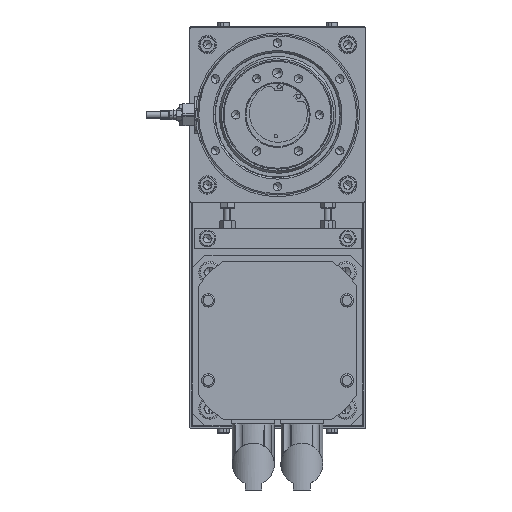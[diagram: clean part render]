
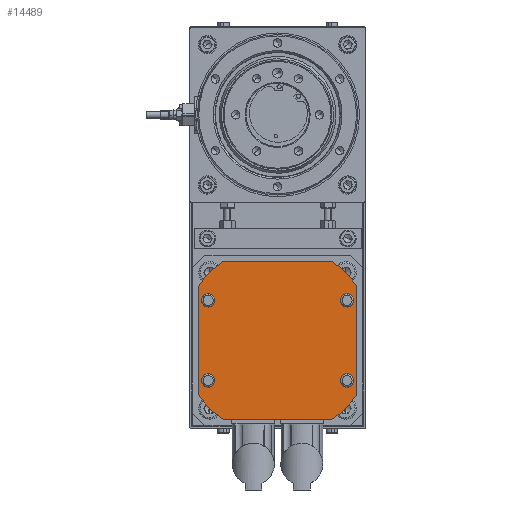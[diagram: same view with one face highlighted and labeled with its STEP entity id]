
A CAD part, front view. The second image highlights one B-rep face of the part: STEP entity #14489.
In plain terms, the highlighted planar face has unit normal (0, -1, 0).
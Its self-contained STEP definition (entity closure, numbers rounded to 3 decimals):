
#52 = FACE_BOUND ( 'NONE', #26745, .T. ) ;
#512 = VERTEX_POINT ( 'NONE', #13588 ) ;
#977 = DIRECTION ( 'NONE',  ( 1., 0., 0. ) ) ;
#1109 = LINE ( 'NONE', #1194, #24230 ) ;
#1194 = CARTESIAN_POINT ( 'NONE',  ( -5.25, 110.5, -155.35 ) ) ;
#2394 = CIRCLE ( 'NONE', #28746, 4. ) ;
#2792 = DIRECTION ( 'NONE',  ( 0., 0., -1. ) ) ;
#3501 = AXIS2_PLACEMENT_3D ( 'NONE', #34023, #21088, #5263 ) ;
#3950 = CIRCLE ( 'NONE', #4221, 57.5 ) ;
#4147 = ORIENTED_EDGE ( 'NONE', *, *, #12663, .F. ) ;
#4221 = AXIS2_PLACEMENT_3D ( 'NONE', #7605, #12753, #15071 ) ;
#4386 = AXIS2_PLACEMENT_3D ( 'NONE', #25590, #4694, #31010 ) ;
#4479 = CARTESIAN_POINT ( 'NONE',  ( -20.35, 110.5, -140.25 ) ) ;
#4694 = DIRECTION ( 'NONE',  ( 0., -1., 0. ) ) ;
#4706 = VERTEX_POINT ( 'NONE', #28794 ) ;
#4954 = AXIS2_PLACEMENT_3D ( 'NONE', #24707, #8880, #27359 ) ;
#5263 = DIRECTION ( 'NONE',  ( 0., 0., 1. ) ) ;
#5313 = VERTEX_POINT ( 'NONE', #4479 ) ;
#5680 = CIRCLE ( 'NONE', #4386, 4. ) ;
#5700 = CARTESIAN_POINT ( 'NONE',  ( -11.2, 110.5, -207.75 ) ) ;
#5885 = DIRECTION ( 'NONE',  ( 0., -1., 0. ) ) ;
#5901 = CARTESIAN_POINT ( 'NONE',  ( -5.25, 110.5, -220.15 ) ) ;
#6015 = VECTOR ( 'NONE', #32387, 1000. ) ;
#6437 = DIRECTION ( 'NONE',  ( 0., 0., 1. ) ) ;
#7044 = EDGE_CURVE ( 'NONE', #8607, #22967, #31149, .T. ) ;
#7066 = FACE_BOUND ( 'NONE', #20379, .T. ) ;
#7467 = ORIENTED_EDGE ( 'NONE', *, *, #15133, .F. ) ;
#7605 = CARTESIAN_POINT ( 'NONE',  ( -52.748, 110.5, -187.752 ) ) ;
#8259 = CARTESIAN_POINT ( 'NONE',  ( -100.25, 110.5, -220.15 ) ) ;
#8317 = EDGE_CURVE ( 'NONE', #16000, #21242, #18267, .T. ) ;
#8380 = CARTESIAN_POINT ( 'NONE',  ( -100.25, 110.5, -155.35 ) ) ;
#8585 = AXIS2_PLACEMENT_3D ( 'NONE', #9188, #22572, #27878 ) ;
#8607 = VERTEX_POINT ( 'NONE', #22290 ) ;
#8761 = EDGE_LOOP ( 'NONE', ( #17845, #4147, #12349, #29434, #24616, #16995, #17333, #7467 ) ) ;
#8880 = DIRECTION ( 'NONE',  ( 0., -1., 0. ) ) ;
#9188 = CARTESIAN_POINT ( 'NONE',  ( -11.2, 110.5, -163.75 ) ) ;
#9555 = CARTESIAN_POINT ( 'NONE',  ( -94.3, 110.5, -211.75 ) ) ;
#9631 = VECTOR ( 'NONE', #977, 1000. ) ;
#10053 = CARTESIAN_POINT ( 'NONE',  ( -52.752, 110.5, -187.748 ) ) ;
#10138 = VERTEX_POINT ( 'NONE', #19331 ) ;
#10177 = AXIS2_PLACEMENT_3D ( 'NONE', #26229, #28758, #33838 ) ;
#10237 = ORIENTED_EDGE ( 'NONE', *, *, #32259, .F. ) ;
#10334 = VECTOR ( 'NONE', #20516, 1000. ) ;
#10549 = LINE ( 'NONE', #8380, #6015 ) ;
#11385 = CARTESIAN_POINT ( 'NONE',  ( -5.25, 110.5, -155.35 ) ) ;
#11682 = CIRCLE ( 'NONE', #19766, 57.5 ) ;
#12263 = ORIENTED_EDGE ( 'NONE', *, *, #16550, .F. ) ;
#12281 = CIRCLE ( 'NONE', #23860, 4. ) ;
#12349 = ORIENTED_EDGE ( 'NONE', *, *, #16423, .F. ) ;
#12461 = ORIENTED_EDGE ( 'NONE', *, *, #28968, .F. ) ;
#12663 = EDGE_CURVE ( 'NONE', #25270, #23425, #1109, .T. ) ;
#12753 = DIRECTION ( 'NONE',  ( 0., 1., 0. ) ) ;
#13248 = FACE_OUTER_BOUND ( 'NONE', #8761, .T. ) ;
#13488 = CARTESIAN_POINT ( 'NONE',  ( -52.752, 110.5, -187.752 ) ) ;
#13499 = DIRECTION ( 'NONE',  ( 0., 1., 0. ) ) ;
#13588 = CARTESIAN_POINT ( 'NONE',  ( -20.35, 110.5, -235.25 ) ) ;
#13737 = EDGE_LOOP ( 'NONE', ( #12461, #16258 ) ) ;
#13774 = EDGE_CURVE ( 'NONE', #29041, #19154, #14514, .T. ) ;
#13888 = CARTESIAN_POINT ( 'NONE',  ( -20.35, 110.5, -140.25 ) ) ;
#14489 = ADVANCED_FACE ( 'NONE', ( #7066, #52, #13248, #15743, #16128 ), #32625, .F. ) ;
#14514 = CIRCLE ( 'NONE', #8585, 4. ) ;
#15071 = DIRECTION ( 'NONE',  ( 0., 0., 1. ) ) ;
#15133 = EDGE_CURVE ( 'NONE', #512, #10138, #24391, .T. ) ;
#15743 = FACE_BOUND ( 'NONE', #27689, .T. ) ;
#15791 = CARTESIAN_POINT ( 'NONE',  ( -94.3, 110.5, -207.75 ) ) ;
#15950 = CIRCLE ( 'NONE', #18606, 4. ) ;
#16000 = VERTEX_POINT ( 'NONE', #5700 ) ;
#16128 = FACE_BOUND ( 'NONE', #13737, .T. ) ;
#16146 = DIRECTION ( 'NONE',  ( 0., 1., 0. ) ) ;
#16258 = ORIENTED_EDGE ( 'NONE', *, *, #22916, .F. ) ;
#16320 = DIRECTION ( 'NONE',  ( 0., -1., 0. ) ) ;
#16423 = EDGE_CURVE ( 'NONE', #5313, #25270, #27982, .T. ) ;
#16550 = EDGE_CURVE ( 'NONE', #19154, #29041, #2394, .T. ) ;
#16741 = ORIENTED_EDGE ( 'NONE', *, *, #7044, .F. ) ;
#16995 = ORIENTED_EDGE ( 'NONE', *, *, #18651, .F. ) ;
#17333 = ORIENTED_EDGE ( 'NONE', *, *, #23393, .F. ) ;
#17673 = AXIS2_PLACEMENT_3D ( 'NONE', #13488, #16146, #2792 ) ;
#17845 = ORIENTED_EDGE ( 'NONE', *, *, #31896, .F. ) ;
#18135 = ORIENTED_EDGE ( 'NONE', *, *, #29069, .F. ) ;
#18267 = CIRCLE ( 'NONE', #10177, 4. ) ;
#18399 = EDGE_CURVE ( 'NONE', #28729, #4706, #3950, .T. ) ;
#18606 = AXIS2_PLACEMENT_3D ( 'NONE', #21543, #16320, #24191 ) ;
#18651 = EDGE_CURVE ( 'NONE', #22888, #28729, #10549, .T. ) ;
#19154 = VERTEX_POINT ( 'NONE', #31964 ) ;
#19331 = CARTESIAN_POINT ( 'NONE',  ( -85.15, 110.5, -235.25 ) ) ;
#19373 = CARTESIAN_POINT ( 'NONE',  ( -11.2, 110.5, -215.75 ) ) ;
#19766 = AXIS2_PLACEMENT_3D ( 'NONE', #10053, #29111, #23666 ) ;
#19927 = CARTESIAN_POINT ( 'NONE',  ( -11.2, 110.5, -159.75 ) ) ;
#20156 = DIRECTION ( 'NONE',  ( 0., -1., 0. ) ) ;
#20295 = CARTESIAN_POINT ( 'NONE',  ( -20.35, 110.5, -235.25 ) ) ;
#20379 = EDGE_LOOP ( 'NONE', ( #20847, #10237 ) ) ;
#20516 = DIRECTION ( 'NONE',  ( -1., 0., 0. ) ) ;
#20813 = AXIS2_PLACEMENT_3D ( 'NONE', #24038, #13499, #27032 ) ;
#20839 = CIRCLE ( 'NONE', #20813, 57.5 ) ;
#20847 = ORIENTED_EDGE ( 'NONE', *, *, #8317, .F. ) ;
#21088 = DIRECTION ( 'NONE',  ( 0., -1., 0. ) ) ;
#21242 = VERTEX_POINT ( 'NONE', #19373 ) ;
#21543 = CARTESIAN_POINT ( 'NONE',  ( -94.3, 110.5, -211.75 ) ) ;
#21911 = CARTESIAN_POINT ( 'NONE',  ( -52.752, 110.5, -187.748 ) ) ;
#22290 = CARTESIAN_POINT ( 'NONE',  ( -94.3, 110.5, -159.75 ) ) ;
#22572 = DIRECTION ( 'NONE',  ( 0., -1., 0. ) ) ;
#22888 = VERTEX_POINT ( 'NONE', #8259 ) ;
#22916 = EDGE_CURVE ( 'NONE', #32282, #23879, #15950, .T. ) ;
#22967 = VERTEX_POINT ( 'NONE', #27187 ) ;
#23393 = EDGE_CURVE ( 'NONE', #10138, #22888, #20839, .T. ) ;
#23425 = VERTEX_POINT ( 'NONE', #5901 ) ;
#23666 = DIRECTION ( 'NONE',  ( 0., 0., 1. ) ) ;
#23860 = AXIS2_PLACEMENT_3D ( 'NONE', #9555, #20156, #6437 ) ;
#23879 = VERTEX_POINT ( 'NONE', #15791 ) ;
#24038 = CARTESIAN_POINT ( 'NONE',  ( -52.748, 110.5, -187.748 ) ) ;
#24191 = DIRECTION ( 'NONE',  ( 0., 0., 1. ) ) ;
#24230 = VECTOR ( 'NONE', #27736, 1000. ) ;
#24362 = DIRECTION ( 'NONE',  ( 0., 0., 1. ) ) ;
#24391 = LINE ( 'NONE', #20295, #10334 ) ;
#24479 = CARTESIAN_POINT ( 'NONE',  ( -11.2, 110.5, -163.75 ) ) ;
#24616 = ORIENTED_EDGE ( 'NONE', *, *, #18399, .F. ) ;
#24683 = EDGE_CURVE ( 'NONE', #4706, #5313, #25341, .T. ) ;
#24707 = CARTESIAN_POINT ( 'NONE',  ( -11.2, 110.5, -211.75 ) ) ;
#24907 = DIRECTION ( 'NONE',  ( 0., 1., 0. ) ) ;
#25270 = VERTEX_POINT ( 'NONE', #11385 ) ;
#25341 = LINE ( 'NONE', #13888, #9631 ) ;
#25590 = CARTESIAN_POINT ( 'NONE',  ( -94.3, 110.5, -163.75 ) ) ;
#26015 = CARTESIAN_POINT ( 'NONE',  ( -100.25, 110.5, -155.35 ) ) ;
#26229 = CARTESIAN_POINT ( 'NONE',  ( -11.2, 110.5, -211.75 ) ) ;
#26679 = AXIS2_PLACEMENT_3D ( 'NONE', #21911, #24907, #32856 ) ;
#26745 = EDGE_LOOP ( 'NONE', ( #16741, #18135 ) ) ;
#27032 = DIRECTION ( 'NONE',  ( 0., 0., -1. ) ) ;
#27187 = CARTESIAN_POINT ( 'NONE',  ( -94.3, 110.5, -167.75 ) ) ;
#27359 = DIRECTION ( 'NONE',  ( 0., 0., 1. ) ) ;
#27689 = EDGE_LOOP ( 'NONE', ( #32766, #12263 ) ) ;
#27736 = DIRECTION ( 'NONE',  ( 0., 0., -1. ) ) ;
#27878 = DIRECTION ( 'NONE',  ( 0., 0., 1. ) ) ;
#27982 = CIRCLE ( 'NONE', #17673, 57.5 ) ;
#28020 = CARTESIAN_POINT ( 'NONE',  ( -94.3, 110.5, -215.75 ) ) ;
#28729 = VERTEX_POINT ( 'NONE', #26015 ) ;
#28746 = AXIS2_PLACEMENT_3D ( 'NONE', #24479, #5885, #24362 ) ;
#28758 = DIRECTION ( 'NONE',  ( 0., -1., 0. ) ) ;
#28794 = CARTESIAN_POINT ( 'NONE',  ( -85.15, 110.5, -140.25 ) ) ;
#28968 = EDGE_CURVE ( 'NONE', #23879, #32282, #12281, .T. ) ;
#29041 = VERTEX_POINT ( 'NONE', #19927 ) ;
#29069 = EDGE_CURVE ( 'NONE', #22967, #8607, #5680, .T. ) ;
#29111 = DIRECTION ( 'NONE',  ( 0., 1., 0. ) ) ;
#29434 = ORIENTED_EDGE ( 'NONE', *, *, #24683, .F. ) ;
#30266 = CIRCLE ( 'NONE', #4954, 4. ) ;
#31010 = DIRECTION ( 'NONE',  ( 0., 0., 1. ) ) ;
#31149 = CIRCLE ( 'NONE', #3501, 4. ) ;
#31896 = EDGE_CURVE ( 'NONE', #23425, #512, #11682, .T. ) ;
#31964 = CARTESIAN_POINT ( 'NONE',  ( -11.2, 110.5, -167.75 ) ) ;
#32259 = EDGE_CURVE ( 'NONE', #21242, #16000, #30266, .T. ) ;
#32282 = VERTEX_POINT ( 'NONE', #28020 ) ;
#32387 = DIRECTION ( 'NONE',  ( 0., 0., 1. ) ) ;
#32625 = PLANE ( 'NONE',  #26679 ) ;
#32766 = ORIENTED_EDGE ( 'NONE', *, *, #13774, .F. ) ;
#32856 = DIRECTION ( 'NONE',  ( 0., 0., 1. ) ) ;
#33838 = DIRECTION ( 'NONE',  ( 0., 0., 1. ) ) ;
#34023 = CARTESIAN_POINT ( 'NONE',  ( -94.3, 110.5, -163.75 ) ) ;
